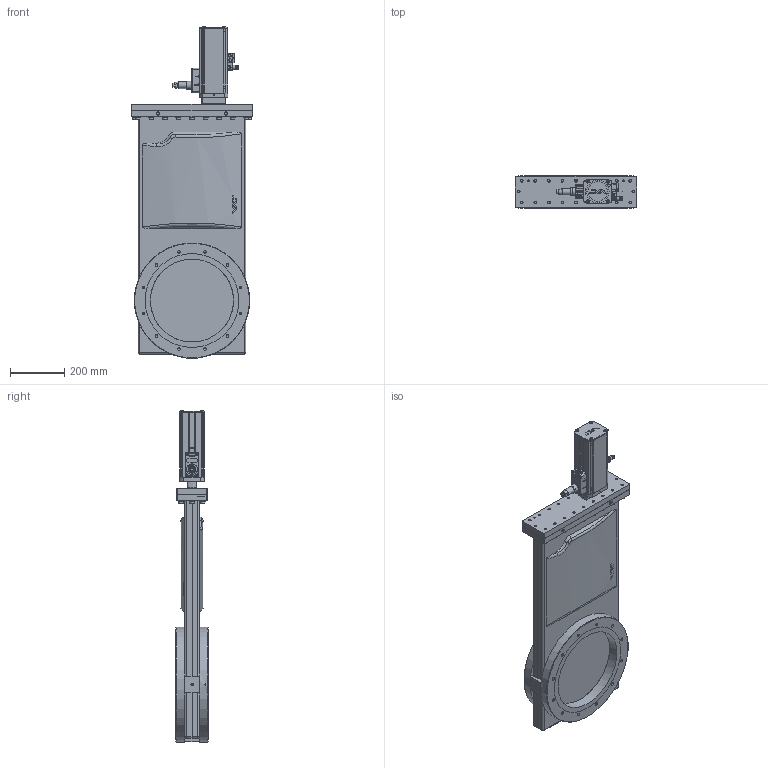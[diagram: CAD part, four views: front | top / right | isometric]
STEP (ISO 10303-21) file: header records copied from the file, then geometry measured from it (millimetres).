
FILE_DESCRIPTION(/* description */ (''),/* implementation_level */ '2;1');
FILE_NAME(/* name */ '1041376144_203.stp',/* time_stamp */ '2015-02-05T14:10:19+01:00',/* author */ (''),/* organization */ (''),/* preprocessor_version */ 'ST-DEVELOPER v11',/* originating_system */ 'SIEMENS PLM Software NX 7.5',/* authorisation */ '');
FILE_SCHEMA (('AP203_CONFIGURATION_CONTROLLED_3D_DESIGN_OF_MECHANICAL_PARTS_AND_ASSEMBLIES_MIM_LF'));
Products named in the file (37): 467882; 437235; 65664-01.2_20676ID; 457464_20671ID; 457464_20669ID; 386293_20679ID; N-7557-016_1.1; N-7557-018.1; N-7557-016_2.1; N-6024-524.1; N-5018-005.1; 70973-01.1; 464926; n-8504-002; N-6024-548.1; 85949-01.1; N-6024-571.1; 87172-01.1; 74628-01.3; 65313-01.1; 86824-01.2; 235684.1_20670ID; 235684.1_20682ID; 86831.2; 752549; n-6134-410; 218206.1; 752564; N-7557-016_3.1_MODELNX-ARRAGMNTArrangement 1; 94800-r1.7_NX-ARRAGMNTKONFIG1; 772120_MODEL; 94226-01.2; 94239-r1.5; 752520_NX-ARRAGMNTMASSBILD; 386313_MODEL; 496799_MODEL; 496827
Assembly tree (91 placements, depth 4):
  496827
    496799_MODEL
      386313_MODEL
        386293_20679ID
        457464_20669ID
        457464_20671ID
      86831.2  x3
      235684.1_20682ID
      235684.1_20670ID
    752520_NX-ARRAGMNTMASSBILD
      86824-01.2
      65313-01.1
      74628-01.3
    752564
    94239-r1.5
      87172-01.1  x4
      N-6024-571.1  x4
      85949-01.1
      94226-01.2
        65664-01.2_20676ID
    772120_MODEL
      N-6024-548.1  x4
      n-8504-002
      464926
      70973-01.1
    94800-r1.7_NX-ARRAGMNTKONFIG1
      N-5018-005.1  x2
      N-6024-524.1  x6
      N-7557-016_2.1
      N-7557-018.1
      N-7557-016_1.1
      N-7557-016_3.1_MODELNX-ARRAGMNTArrangement 1
        437235
        467882
    218206.1  x20
    n-6134-410  x20
    752549
Bounding box: 448 x 120 x 1222.36 mm (x, y, z)
Volume: 13279794 mm3; surface area: 2726323 mm2
Topology: 123 solids, 123 shells, 2547 faces, 6189 edges, 4034 vertices
Faces by surface type: plane 1478, cylinder 653, cone 146, extrusion 103, torus 94, bspline 44, sphere 29
Full cylindrical faces by diameter (mm): 0.4 x1, 1.66 x7, 2 x1, 2.125 x1, 2.5 x8, 2.65 x1, 3 x10, 3.2 x2, 3.3 x4, 3.4 x4, 3.5 x3, 4 x6, 4.2 x4, 4.22 x1, 4.35 x2, 4.4 x4, 4.45 x4, 4.5 x2, 4.6 x2, 5 x7, 5.2 x4, 5.5 x1, 5.9 x1, 5.99 x2, 6 x17, 6.25 x2, 6.6 x4, 7 x1, 7.05 x1, 7.5 x4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
Entity records: 68816 total; most frequent: CARTESIAN_POINT 17007, ORIENTED_EDGE 8348, DIRECTION 8041, EDGE_CURVE 4174, AXIS2_PLACEMENT_3D 2972, VERTEX_POINT 2939, EDGE_LOOP 2478, VECTOR 2097
